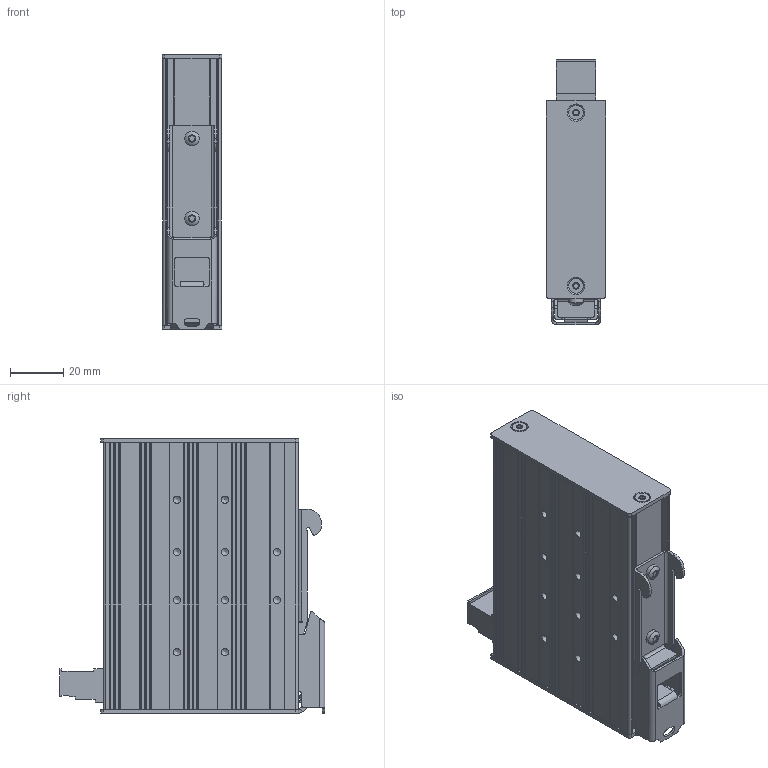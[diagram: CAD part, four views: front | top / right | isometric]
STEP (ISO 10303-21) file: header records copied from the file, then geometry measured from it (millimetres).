
FILE_DESCRIPTION(('TFLEX Exchange Step'),'2;1');
FILE_NAME('TZCA21140XB_NITE-RS5-1100.stp', '2019-08-13T11:41:33+02:00',('User'),('Unknown organisation'),'TFLEX Exchange 2019.0','T-FLEX CAD','Unknown authorisation');
FILE_SCHEMA( ('AUTOMOTIVE_DESIGN { 1 0 10303 214 1 1 1 1 }') );
Length unit declared in the file: millimetre
Products named in the file (1): TZCA21140XB_NITE-RS5-1100
Bounding box: 22.5 x 99.65 x 103.05 mm (x, y, z)
Volume: 157411.2 mm3; surface area: 39791.3 mm2
Topology: 2 solids, 6 shells, 2486 faces, 6982 edges, 4573 vertices
Faces by surface type: plane 979, bspline 851, cylinder 472, cone 155, torus 22, extrusion 5, sphere 2
Full cylindrical faces by diameter (mm): 0.5 x40, 1.2 x11, 1.3 x3, 2.75 x10, 3 x11, 3.2 x4, 3.75 x3, 3.95 x3, 5.5 x10, 6 x4
Entity records: 85943 total; most frequent: CARTESIAN_POINT 25703, ORIENTED_EDGE 13864, DIRECTION 9819, EDGE_CURVE 6932, VERTEX_POINT 4573, VECTOR 3933, LINE 3928, AXIS2_PLACEMENT_3D 2943
